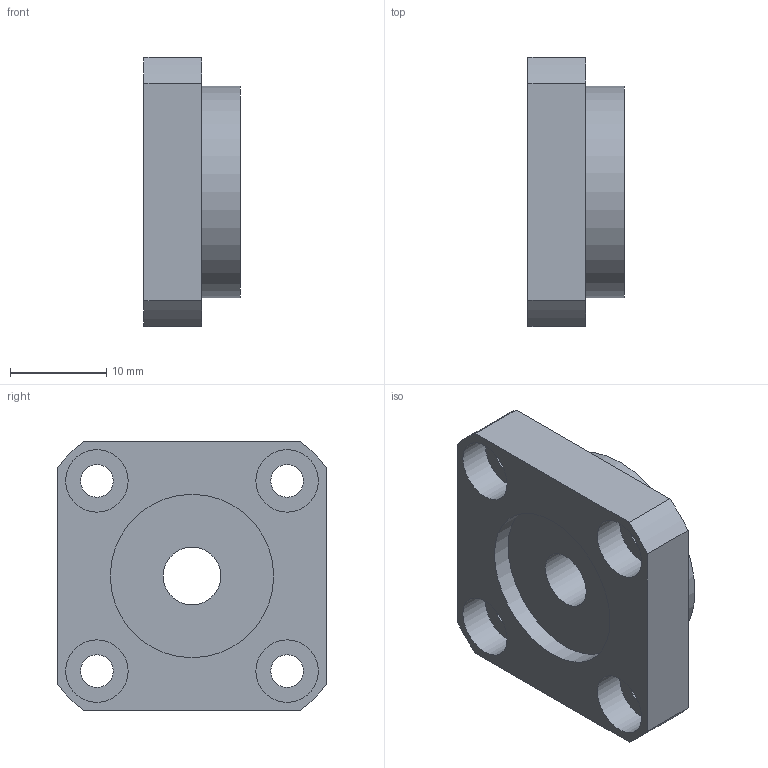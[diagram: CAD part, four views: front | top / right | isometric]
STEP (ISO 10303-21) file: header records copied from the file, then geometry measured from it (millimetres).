
FILE_DESCRIPTION((''),'2;1');
FILE_NAME('D:\製品 (図面)\カタログ用3D\ネジ関連\STEP形式\FF\FF8.stp','2010-06-01T16:41:13',('Tsuchiya'),(''),'Autodesk Inventor 10','Autodesk Inventor 10','');
FILE_SCHEMA(('AUTOMOTIVE_DESIGN { 1 0 10303 214 1 1 1 1 }'));
Length unit declared in the file: millimetre
Products named in the file (1): FF8
Bounding box: 10 x 28 x 28 mm (x, y, z)
Volume: 4530.4 mm3; surface area: 3034.5 mm2
Topology: 1 solids, 1 shells, 29 faces, 60 edges, 40 vertices
Faces by surface type: cylinder 16, plane 13
Full cylindrical faces by diameter (mm): 3.4 x4, 6 x1, 6.5 x4, 17 x2, 22 x1
Entity records: 769 total; most frequent: DIRECTION 140, CARTESIAN_POINT 118, ORIENTED_EDGE 96, AXIS2_PLACEMENT_3D 62, EDGE_LOOP 58, EDGE_CURVE 48, VERTEX_POINT 40, CIRCLE 32
